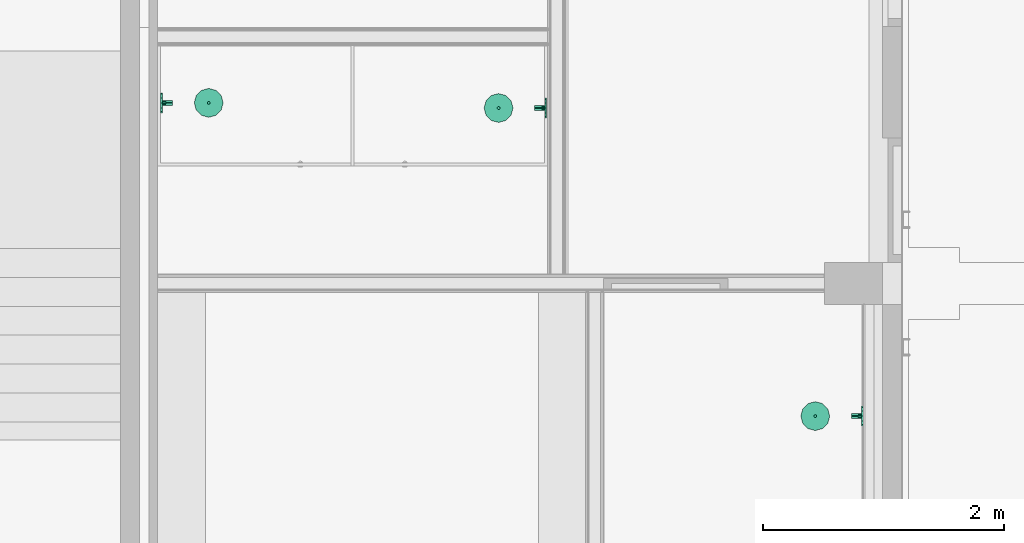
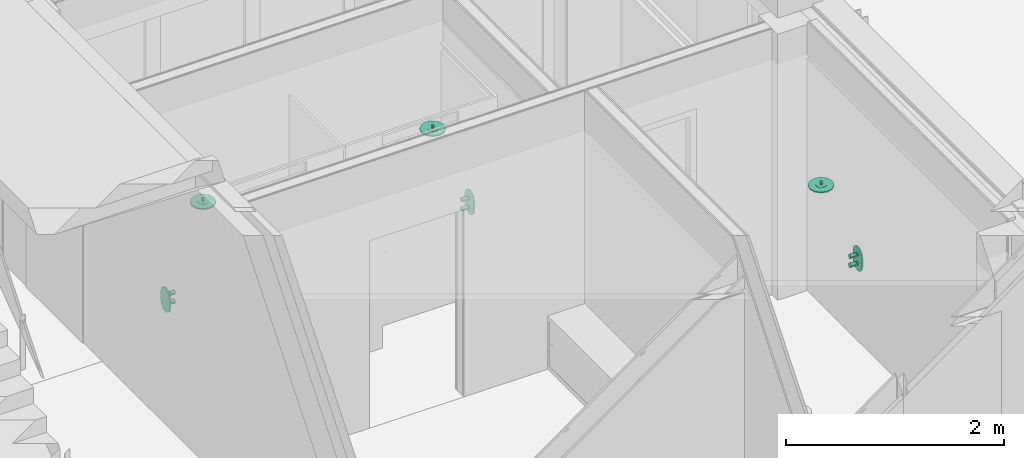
# One storey, part 94 of 109: 3 flow terminals.
"""IFC2X3 building model written with IfcOpenShell, lengths in millimetres."""

from ifc_helpers import new_model, entity, si_unit, converted_unit, derived_unit, money_unit, direction, frame, origin_with_axes, place, context, subcontext, project, spatial, faceted_brep, source, transform, mapped, type_object, type_shapes, element, save


model = new_model("IFC2X3")

# Units and contexts
model_context = context("Model", 3, precision=0.01, world=origin_with_axes(), true_north=direction((0.0, 1.0)))
body_context = subcontext(model_context, "Body", "Model", "MODEL_VIEW")
ifc_project = project(units=[si_unit("LENGTHUNIT", "METRE", prefix="MILLI"), si_unit("AREAUNIT", "SQUARE_METRE"), si_unit("VOLUMEUNIT", "CUBIC_METRE"), converted_unit("PLANEANGLEUNIT", "DEGREE", entity("IfcPlaneAngleMeasure", 0.0174532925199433), si_unit("PLANEANGLEUNIT", "RADIAN"), dimensions=[0, 0, 0, 0, 0, 0, 0]), money_unit("EUR"), converted_unit("TIMEUNIT", "Year", entity("IfcTimeMeasure", 31557600.0), si_unit("TIMEUNIT", "SECOND"), dimensions=[0, 0, 1, 0, 0, 0, 0]), si_unit("MASSUNIT", "GRAM", prefix="KILO"), si_unit("THERMODYNAMICTEMPERATUREUNIT", "DEGREE_CELSIUS"), si_unit("LUMINOUSINTENSITYUNIT", "LUMEN"), si_unit("ENERGYUNIT", "JOULE", prefix="MEGA"), derived_unit("THERMALCONDUCTANCEUNIT", [(si_unit("POWERUNIT", "WATT"), 1), (si_unit("LENGTHUNIT", "METRE"), -1), (si_unit("THERMODYNAMICTEMPERATUREUNIT", "KELVIN"), -1)]), derived_unit("SPECIFICHEATCAPACITYUNIT", [(si_unit("ENERGYUNIT", "JOULE"), 1), (si_unit("MASSUNIT", "GRAM", prefix="KILO"), -1), (si_unit("THERMODYNAMICTEMPERATUREUNIT", "KELVIN"), -1)]), derived_unit("MASSDENSITYUNIT", [(si_unit("MASSUNIT", "GRAM", prefix="KILO"), 1), (si_unit("VOLUMEUNIT", "CUBIC_METRE"), -1)])], contexts=[model_context])

# Site, building, storey
site_placement = place(None, origin_with_axes())
site = spatial("IfcSite", under=ifc_project, at=site_placement, Name="<site naam>", CompositionType="ELEMENT")
building_placement = place(site_placement, origin_with_axes())
building = spatial("IfcBuilding", under=site, at=building_placement, Name="<Naam gebouw>", CompositionType="ELEMENT")
storey_placement = place(building_placement, origin_with_axes())
storey = spatial("IfcBuildingStorey", under=building, at=storey_placement, Name="00 Begane grond", CompositionType="ELEMENT", Elevation=0.0)

# Flow terminals
sanitary_terminal_type = type_object("IfcSanitaryTerminalType", Name="Douche armatuur 27", PredefinedType="NOTDEFINED")
shared_shape = source(origin_with_axes(), body_context, "Body", "Brep", [
    faceted_brep([(-83.0, 0.0, 1000.0), (-83.0, 0.0, 950.0), (-83.0, -15.0, 950.0), (-83.0, -15.0, 1000.0), (-83.0, 0.0, 1050.0), (-71.88010851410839, 0.0, 1091.5), (-41.49999999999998, 0.0, 1121.880108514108), (0.0, 0.0, 1133.0), (41.50000000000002, 0.0, 1121.880108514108), (71.88010851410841, 0.0, 1091.5), (83.0, 0.0, 1050.0), (83.0, 0.0, 950.0), (71.88010851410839, 0.0, 908.5), (41.49999999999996, 0.0, 878.1198914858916), (0.0, 0.0, 867.0), (-41.50000000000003, 0.0, 878.1198914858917), (-71.88010851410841, 0.0, 908.5), (-71.88010851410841, -15.00000000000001, 908.5), (-41.50000000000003, -15.00000000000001, 878.1198914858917), (0.0, -15.00000000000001, 867.0), (41.49999999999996, -15.00000000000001, 878.1198914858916), (71.88010851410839, -15.00000000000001, 908.5), (83.0, -15.0, 950.0), (83.0, -15.0, 1050.0), (71.88010851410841, -14.99999999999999, 1091.5), (41.50000000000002, -14.99999999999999, 1121.880108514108), (0.0, -14.99999999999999, 1133.0), (-41.49999999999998, -14.99999999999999, 1121.880108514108), (-71.88010851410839, -14.99999999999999, 1091.5), (-83.0, -15.0, 1050.0)], [[[0, 1, 2, 3]], [[0, 4, 5, 6, 7, 8, 9, 10, 11, 12, 13, 14, 15, 16, 1]], [[1, 16, 17, 2]], [[3, 2, 17, 18, 19, 20, 21, 22, 23, 24, 25, 26, 27, 28, 29]], [[4, 0, 3, 29]], [[5, 4, 29, 28]], [[6, 5, 28, 27]], [[7, 6, 27, 26]], [[8, 7, 26, 25]], [[9, 8, 25, 24]], [[10, 9, 24, 23]], [[11, 10, 23, 22]], [[12, 11, 22, 21]], [[13, 12, 21, 20]], [[14, 13, 20, 19]], [[15, 14, 19, 18]], [[16, 15, 18, 17]]]),
    faceted_brep([(17.32050807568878, -45.0, 960.0), (20.0, -45.0, 950.0), (20.0, -15.0, 950.0), (17.32050807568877, -15.0, 960.0), (10.00000000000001, -45.0, 967.3205080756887), (0.0, -45.0, 970.0), (-9.999999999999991, -45.0, 967.3205080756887), (-17.32050807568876, -45.0, 960.0), (-19.99999999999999, -45.0, 950.0), (-17.32050807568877, -45.0, 940.0), (-10.00000000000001, -45.0, 932.6794919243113), (0.0, -45.0, 929.9999999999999), (9.999999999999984, -45.0, 932.6794919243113), (17.32050807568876, -45.0, 940.0), (17.32050807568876, -15.0, 940.0), (9.999999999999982, -15.0, 932.6794919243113), (0.0, -15.0, 929.9999999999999), (-10.00000000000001, -15.0, 932.6794919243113), (-17.32050807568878, -15.0, 940.0), (-20.0, -15.0, 950.0), (-17.32050807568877, -15.0, 960.0), (-9.999999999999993, -15.0, 967.3205080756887), (0.0, -15.0, 970.0), (10.0, -15.0, 967.3205080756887)], [[[0, 1, 2, 3]], [[1, 0, 4, 5, 6, 7, 8, 9, 10, 11, 12, 13]], [[1, 13, 14, 2]], [[2, 14, 15, 16, 17, 18, 19, 20, 21, 22, 23, 3]], [[4, 0, 3, 23]], [[5, 4, 23, 22]], [[6, 5, 22, 21]], [[7, 6, 21, 20]], [[8, 7, 20, 19]], [[9, 8, 19, 18]], [[10, 9, 18, 17]], [[11, 10, 17, 16]], [[12, 11, 16, 15]], [[13, 12, 15, 14]]]),
    faceted_brep([(-3.111269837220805, -45.0, 978.0014285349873), (-15.55634918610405, -45.0, 965.5563491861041), (-15.55634918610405, -100.0, 965.5563491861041), (-3.111269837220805, -100.0, 978.0014285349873), (3.111269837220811, -45.0, 978.0014285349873), (15.55634918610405, -45.0, 965.5563491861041), (21.2503681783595, -45.0, 955.6940189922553), (21.2503681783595, -45.0, 944.3059810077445), (15.55634918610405, -45.0, 934.4436508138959), (5.694018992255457, -45.0, 928.7496318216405), (-5.694018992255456, -45.0, 928.7496318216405), (-15.55634918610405, -45.0, 934.4436508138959), (-21.2503681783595, -45.0, 944.3059810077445), (-21.2503681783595, -45.0, 955.6940189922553), (-21.2503681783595, -100.0, 955.6940189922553), (-21.2503681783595, -100.0, 944.3059810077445), (-15.55634918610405, -100.0, 934.4436508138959), (-5.694018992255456, -100.0, 928.7496318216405), (5.694018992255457, -100.0, 928.7496318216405), (15.55634918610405, -100.0, 934.4436508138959), (21.2503681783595, -100.0, 944.3059810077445), (21.2503681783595, -100.0, 955.6940189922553), (15.55634918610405, -100.0, 965.5563491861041), (3.111269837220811, -100.0, 978.0014285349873)], [[[0, 1, 2, 3]], [[0, 4, 5, 6, 7, 8, 9, 10, 11, 12, 13, 1]], [[1, 13, 14, 2]], [[3, 2, 14, 15, 16, 17, 18, 19, 20, 21, 22, 23]], [[4, 0, 3, 23]], [[5, 4, 23, 22]], [[6, 5, 22, 21]], [[7, 6, 21, 20]], [[8, 7, 20, 19]], [[9, 8, 19, 18]], [[10, 9, 18, 17]], [[11, 10, 17, 16]], [[12, 11, 16, 15]], [[13, 12, 15, 14]]]),
    faceted_brep([(17.32050807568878, -45.0, 1060.0), (20.0, -45.0, 1050.0), (20.0, -15.0, 1050.0), (17.32050807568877, -15.0, 1060.0), (10.00000000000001, -45.0, 1067.320508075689), (0.0, -45.0, 1070.0), (-9.999999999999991, -45.0, 1067.320508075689), (-17.32050807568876, -45.0, 1060.0), (-19.99999999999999, -45.0, 1050.0), (-17.32050807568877, -45.0, 1040.0), (-10.00000000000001, -45.0, 1032.679491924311), (0.0, -45.0, 1030.0), (9.999999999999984, -45.0, 1032.679491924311), (17.32050807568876, -45.0, 1040.0), (17.32050807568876, -15.0, 1040.0), (9.999999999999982, -15.0, 1032.679491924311), (0.0, -15.0, 1030.0), (-10.00000000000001, -15.0, 1032.679491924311), (-17.32050807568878, -15.0, 1040.0), (-20.0, -15.0, 1050.0), (-17.32050807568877, -15.0, 1060.0), (-9.999999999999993, -15.0, 1067.320508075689), (0.0, -15.0, 1070.0), (10.0, -15.0, 1067.320508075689)], [[[0, 1, 2, 3]], [[1, 0, 4, 5, 6, 7, 8, 9, 10, 11, 12, 13]], [[1, 13, 14, 2]], [[2, 14, 15, 16, 17, 18, 19, 20, 21, 22, 23, 3]], [[4, 0, 3, 23]], [[5, 4, 23, 22]], [[6, 5, 22, 21]], [[7, 6, 21, 20]], [[8, 7, 20, 19]], [[9, 8, 19, 18]], [[10, 9, 18, 17]], [[11, 10, 17, 16]], [[12, 11, 16, 15]], [[13, 12, 15, 14]]]),
    faceted_brep([(-3.111269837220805, -45.0, 1078.001428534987), (-15.55634918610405, -45.0, 1065.556349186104), (-15.55634918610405, -100.0, 1065.556349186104), (-3.111269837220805, -100.0, 1078.001428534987), (3.111269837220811, -45.0, 1078.001428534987), (15.55634918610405, -45.0, 1065.556349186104), (21.2503681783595, -45.0, 1055.694018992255), (21.2503681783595, -45.0, 1044.305981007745), (15.55634918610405, -45.0, 1034.443650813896), (5.694018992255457, -45.0, 1028.74963182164), (-5.694018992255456, -45.0, 1028.74963182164), (-15.55634918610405, -45.0, 1034.443650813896), (-21.2503681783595, -45.0, 1044.305981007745), (-21.2503681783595, -45.0, 1055.694018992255), (-21.2503681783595, -100.0, 1055.694018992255), (-21.2503681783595, -100.0, 1044.305981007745), (-15.55634918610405, -100.0, 1034.443650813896), (-5.694018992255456, -100.0, 1028.74963182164), (5.694018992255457, -100.0, 1028.74963182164), (15.55634918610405, -100.0, 1034.443650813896), (21.2503681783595, -100.0, 1044.305981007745), (21.2503681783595, -100.0, 1055.694018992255), (15.55634918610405, -100.0, 1065.556349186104), (3.111269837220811, -100.0, 1078.001428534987)], [[[0, 1, 2, 3]], [[0, 4, 5, 6, 7, 8, 9, 10, 11, 12, 13, 1]], [[1, 13, 14, 2]], [[3, 2, 14, 15, 16, 17, 18, 19, 20, 21, 22, 23]], [[4, 0, 3, 23]], [[5, 4, 23, 22]], [[6, 5, 22, 21]], [[7, 6, 21, 20]], [[8, 7, 20, 19]], [[9, 8, 19, 18]], [[10, 9, 18, 17]], [[11, 10, 17, 16]], [[12, 11, 16, 15]], [[13, 12, 15, 14]]]),
    faceted_brep([(54.99999999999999, -304.7372055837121, 1946.0), (0.0, -290.0000000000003, 1946.0), (0.0, -290.0000000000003, 1948.0), (54.99999999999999, -304.7372055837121, 1948.0), (95.26279441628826, -345.0000000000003, 1946.0), (110.0, -400.0000000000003, 1946.0), (95.26279441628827, -455.0000000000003, 1946.0), (55.00000000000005, -495.2627944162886, 1946.0), (0.0, -510.0000000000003, 1946.0), (-54.99999999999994, -495.2627944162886, 1946.0), (-95.26279441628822, -455.0000000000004, 1946.0), (-110.0, -400.0000000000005, 1946.0), (-95.2627944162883, -345.0000000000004, 1946.0), (-55.0000000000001, -304.7372055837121, 1946.0), (-55.0000000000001, -304.7372055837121, 1948.0), (0.0, -280.0000000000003, 1948.0), (60.0, -296.0769515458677, 1948.0), (95.26279441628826, -345.0000000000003, 1948.0), (110.0, -400.0000000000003, 1948.0), (95.26279441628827, -455.0000000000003, 1948.0), (55.00000000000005, -495.2627944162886, 1948.0), (0.0, -510.0000000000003, 1948.0), (-54.99999999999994, -495.2627944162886, 1948.0), (-95.26279441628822, -455.0000000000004, 1948.0), (-110.0, -400.0000000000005, 1948.0), (-95.2627944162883, -345.0000000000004, 1948.0), (-60.00000000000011, -296.0769515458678, 1948.0), (0.0, -280.0000000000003, 1960.0), (60.0, -296.0769515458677, 1960.0), (103.9230484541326, -340.0000000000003, 1948.0), (120.0, -400.0000000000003, 1948.0), (103.9230484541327, -460.0000000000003, 1948.0), (60.00000000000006, -503.9230484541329, 1948.0), (0.0, -520.0000000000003, 1948.0), (-59.99999999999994, -503.923048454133, 1948.0), (-103.9230484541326, -460.0000000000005, 1948.0), (-120.0, -400.0000000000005, 1948.0), (-103.9230484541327, -340.0000000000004, 1948.0), (-60.00000000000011, -296.0769515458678, 1960.0), (0.0, -350.0000000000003, 1960.0), (25.0, -356.6987298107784, 1960.0), (103.9230484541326, -340.0000000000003, 1960.0), (120.0, -400.0000000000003, 1960.0), (103.9230484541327, -460.0000000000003, 1960.0), (60.00000000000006, -503.9230484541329, 1960.0), (0.0, -520.0000000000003, 1960.0), (-59.99999999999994, -503.923048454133, 1960.0), (-103.9230484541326, -460.0000000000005, 1960.0), (-120.0, -400.0000000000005, 1960.0), (-103.9230484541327, -340.0000000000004, 1960.0), (-25.00000000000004, -356.6987298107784, 1960.0), (0.0, -350.0000000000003, 1963.0), (25.0, -356.6987298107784, 1963.0), (43.30127018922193, -375.0000000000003, 1960.0), (50.0, -400.0000000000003, 1960.0), (43.30127018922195, -425.0000000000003, 1960.0), (25.00000000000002, -443.3012701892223, 1960.0), (0.0, -450.0000000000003, 1960.0), (-24.99999999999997, -443.3012701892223, 1960.0), (-43.30127018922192, -425.0000000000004, 1960.0), (-50.0, -400.0000000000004, 1960.0), (-43.30127018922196, -375.0000000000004, 1960.0), (-25.00000000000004, -356.6987298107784, 1963.0), (0.0, -388.0000000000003, 1963.0), (6.000000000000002, -389.6076951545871, 1963.0), (43.30127018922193, -375.0000000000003, 1963.0), (50.0, -400.0000000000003, 1963.0), (43.30127018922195, -425.0000000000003, 1963.0), (25.00000000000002, -443.3012701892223, 1963.0), (0.0, -450.0000000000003, 1963.0), (-24.99999999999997, -443.3012701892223, 1963.0), (-43.30127018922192, -425.0000000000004, 1963.0), (-50.0, -400.0000000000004, 1963.0), (-43.30127018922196, -375.0000000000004, 1963.0), (-6.000000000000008, -389.6076951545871, 1963.0), (0.0, -388.0000000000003, 1984.0), (6.0, -389.6076951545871, 1984.0), (10.39230484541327, -394.0000000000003, 1963.0), (12.0, -400.0000000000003, 1963.0), (10.39230484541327, -406.0000000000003, 1963.0), (6.000000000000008, -410.3923048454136, 1963.0), (0.0, -412.0000000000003, 1963.0), (-5.99999999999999, -410.3923048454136, 1963.0), (-10.39230484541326, -406.0000000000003, 1963.0), (-12.0, -400.0000000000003, 1963.0), (-10.39230484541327, -394.0000000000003, 1963.0), (-6.00000000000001, -389.6076951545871, 1984.0), (0.0, -390.0000000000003, 1984.0), (5.0, -391.339745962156, 1984.0), (10.39230484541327, -394.0000000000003, 1984.0), (12.0, -400.0000000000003, 1984.0), (10.39230484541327, -406.0000000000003, 1984.0), (6.000000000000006, -410.3923048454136, 1984.0), (0.0, -412.0000000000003, 1984.0), (-5.999999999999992, -410.3923048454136, 1984.0), (-10.39230484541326, -406.0000000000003, 1984.0), (-12.0, -400.0000000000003, 1984.0), (-10.39230484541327, -394.0000000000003, 1984.0), (-5.000000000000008, -391.339745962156, 1984.0), (0.0, -390.0000000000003, 1987.0), (5.0, -391.339745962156, 1987.0), (8.660254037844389, -395.0000000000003, 1984.0), (10.0, -400.0000000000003, 1984.0), (8.66025403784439, -405.0000000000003, 1984.0), (5.000000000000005, -408.6602540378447, 1984.0), (0.0, -410.0000000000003, 1984.0), (-4.999999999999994, -408.6602540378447, 1984.0), (-8.660254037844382, -405.0000000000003, 1984.0), (-9.999999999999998, -400.0000000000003, 1984.0), (-8.66025403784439, -395.0000000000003, 1984.0), (-5.000000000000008, -391.339745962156, 1987.0), (0.0, -388.0000000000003, 1987.0), (6.0, -389.6076951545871, 1987.0), (8.660254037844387, -395.0000000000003, 1987.0), (10.0, -400.0000000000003, 1987.0), (8.660254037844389, -405.0000000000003, 1987.0), (5.000000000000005, -408.6602540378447, 1987.0), (0.0, -410.0000000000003, 1987.0), (-4.999999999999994, -408.6602540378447, 1987.0), (-8.660254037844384, -405.0000000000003, 1987.0), (-10.0, -400.0000000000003, 1987.0), (-8.66025403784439, -395.0000000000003, 1987.0), (-6.00000000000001, -389.6076951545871, 1987.0), (0.0, -388.0000000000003, 2000.0), (5.999999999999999, -389.6076951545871, 2000.0), (10.39230484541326, -394.0000000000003, 1987.0), (12.0, -400.0000000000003, 1987.0), (10.39230484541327, -406.0000000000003, 1987.0), (6.000000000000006, -410.3923048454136, 1987.0), (0.0, -412.0000000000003, 1987.0), (-5.999999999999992, -410.3923048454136, 1987.0), (-10.39230484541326, -406.0000000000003, 1987.0), (-12.0, -400.0000000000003, 1987.0), (-10.39230484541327, -394.0000000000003, 1987.0), (-6.000000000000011, -389.6076951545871, 2000.0), (-10.39230484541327, -394.0000000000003, 2000.0), (-12.0, -400.0000000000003, 2000.0), (-10.39230484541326, -406.0000000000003, 2000.0), (-5.999999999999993, -410.3923048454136, 2000.0), (0.0, -412.0000000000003, 2000.0), (6.000000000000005, -410.3923048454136, 2000.0), (10.39230484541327, -406.0000000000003, 2000.0), (12.0, -400.0000000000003, 2000.0), (10.39230484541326, -394.0000000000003, 2000.0)], [[[0, 1, 2, 3]], [[1, 0, 4, 5, 6, 7, 8, 9, 10, 11, 12, 13]], [[1, 13, 14, 2]], [[3, 2, 15, 16]], [[4, 0, 3, 17]], [[5, 4, 17, 18]], [[6, 5, 18, 19]], [[7, 6, 19, 20]], [[8, 7, 20, 21]], [[9, 8, 21, 22]], [[10, 9, 22, 23]], [[11, 10, 23, 24]], [[12, 11, 24, 25]], [[13, 12, 25, 14]], [[2, 14, 26, 15]], [[16, 15, 27, 28]], [[17, 3, 16, 29]], [[18, 17, 29, 30]], [[19, 18, 30, 31]], [[20, 19, 31, 32]], [[21, 20, 32, 33]], [[22, 21, 33, 34]], [[23, 22, 34, 35]], [[24, 23, 35, 36]], [[25, 24, 36, 37]], [[14, 25, 37, 26]], [[15, 26, 38, 27]], [[28, 27, 39, 40]], [[29, 16, 28, 41]], [[30, 29, 41, 42]], [[31, 30, 42, 43]], [[32, 31, 43, 44]], [[33, 32, 44, 45]], [[34, 33, 45, 46]], [[35, 34, 46, 47]], [[36, 35, 47, 48]], [[37, 36, 48, 49]], [[26, 37, 49, 38]], [[27, 38, 50, 39]], [[40, 39, 51, 52]], [[41, 28, 40, 53]], [[42, 41, 53, 54]], [[43, 42, 54, 55]], [[44, 43, 55, 56]], [[45, 44, 56, 57]], [[46, 45, 57, 58]], [[47, 46, 58, 59]], [[48, 47, 59, 60]], [[49, 48, 60, 61]], [[38, 49, 61, 50]], [[39, 50, 62, 51]], [[52, 51, 63, 64]], [[53, 40, 52, 65]], [[54, 53, 65, 66]], [[55, 54, 66, 67]], [[56, 55, 67, 68]], [[57, 56, 68, 69]], [[58, 57, 69, 70]], [[59, 58, 70, 71]], [[60, 59, 71, 72]], [[61, 60, 72, 73]], [[50, 61, 73, 62]], [[51, 62, 74, 63]], [[64, 63, 75, 76]], [[65, 52, 64, 77]], [[66, 65, 77, 78]], [[67, 66, 78, 79]], [[68, 67, 79, 80]], [[69, 68, 80, 81]], [[70, 69, 81, 82]], [[71, 70, 82, 83]], [[72, 71, 83, 84]], [[73, 72, 84, 85]], [[62, 73, 85, 74]], [[63, 74, 86, 75]], [[76, 75, 87, 88]], [[77, 64, 76, 89]], [[78, 77, 89, 90]], [[79, 78, 90, 91]], [[80, 79, 91, 92]], [[81, 80, 92, 93]], [[82, 81, 93, 94]], [[83, 82, 94, 95]], [[84, 83, 95, 96]], [[85, 84, 96, 97]], [[74, 85, 97, 86]], [[75, 86, 98, 87]], [[88, 87, 99, 100]], [[89, 76, 88, 101]], [[90, 89, 101, 102]], [[91, 90, 102, 103]], [[92, 91, 103, 104]], [[93, 92, 104, 105]], [[94, 93, 105, 106]], [[95, 94, 106, 107]], [[96, 95, 107, 108]], [[97, 96, 108, 109]], [[86, 97, 109, 98]], [[87, 98, 110, 99]], [[100, 99, 111, 112]], [[101, 88, 100, 113]], [[102, 101, 113, 114]], [[103, 102, 114, 115]], [[104, 103, 115, 116]], [[105, 104, 116, 117]], [[106, 105, 117, 118]], [[107, 106, 118, 119]], [[108, 107, 119, 120]], [[109, 108, 120, 121]], [[98, 109, 121, 110]], [[99, 110, 122, 111]], [[112, 111, 123, 124]], [[113, 100, 112, 125]], [[114, 113, 125, 126]], [[115, 114, 126, 127]], [[116, 115, 127, 128]], [[117, 116, 128, 129]], [[118, 117, 129, 130]], [[119, 118, 130, 131]], [[120, 119, 131, 132]], [[121, 120, 132, 133]], [[110, 121, 133, 122]], [[111, 122, 134, 123]], [[123, 134, 135, 136, 137, 138, 139, 140, 141, 142, 143, 124]], [[125, 112, 124, 143]], [[126, 125, 143, 142]], [[127, 126, 142, 141]], [[128, 127, 141, 140]], [[129, 128, 140, 139]], [[130, 129, 139, 138]], [[131, 130, 138, 137]], [[132, 131, 137, 136]], [[133, 132, 136, 135]], [[122, 133, 135, 134]]]),
])
type_shapes(sanitary_terminal_type, [shared_shape])
for number, where, z_axis, x_axis, name in (
    (1, (58000.00000894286, 14897.3952202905, -75.0), (0.0, 0.0, 1.0), (0.0, -1.0, 0.0), "74_Brandslanghaspelkast_Lege"),
    (2, (55368.30000000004, 17457.21701916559, -75.0), (0.0, 0.0, 1.0), (0.0, -1.0, 0.0), "74_Brandslanghaspelkast_Lege"),
    (3, (52160.00000000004, 17500.00000000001, -75.0), (0.0, 0.0, 1.0), (0.0, 1.0, 0.0), "74_Brandslanghaspelkast_Lege"),
):
    element("IfcFlowTerminal", number, at=place(storey_placement, frame(where, z_axis=z_axis, x_axis=x_axis)), inside=storey, type_object=sanitary_terminal_type, Name=name, ObjectType="Sanitary Terminal", context=body_context, shape_type="MappedRepresentation", body=[
        mapped(shared_shape, transform((0.0, 0.0, 0.0))),
    ])

save(model, "model.ifc")
